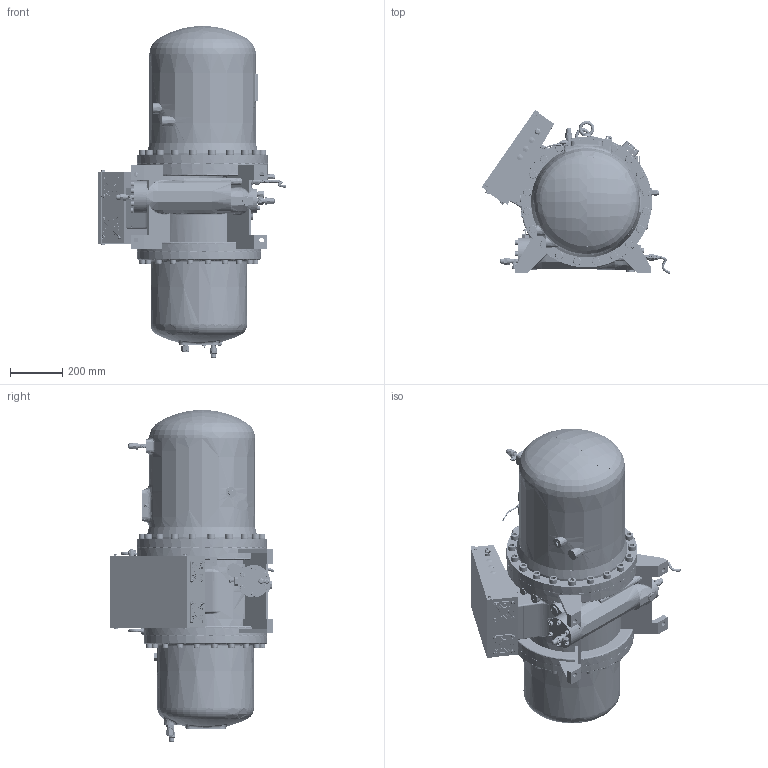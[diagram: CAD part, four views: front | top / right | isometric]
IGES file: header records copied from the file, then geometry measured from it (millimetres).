
Global section: file name: RC2-260A&B outline; native system: Autodesk Inventor 2017; preprocessor: unknown; author: hedylu; date: 20170626.135802; units: centimetre
Bounding box: 721.48 x 627.18 x 1268.83 mm (x, y, z)
Surface area: 3852728.8 mm2 (no closed solid volume)
Topology: 0 solids, 0 shells, 2839 faces, 35134 edges, 35119 vertices
Faces by surface type: bspline 1486, revolution 1353
